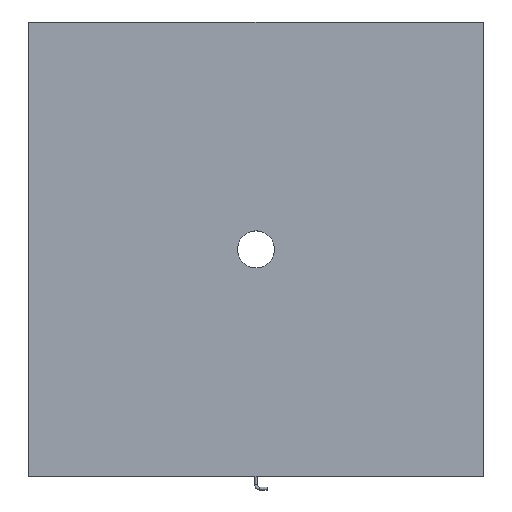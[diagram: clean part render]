
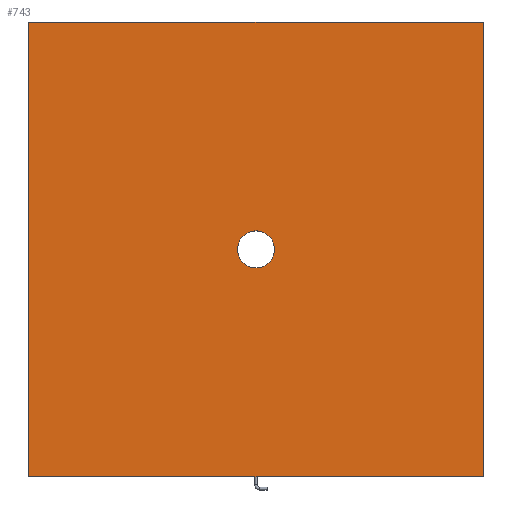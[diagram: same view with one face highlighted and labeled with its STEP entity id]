
A CAD part, top view. The second image highlights one B-rep face of the part: STEP entity #743.
In plain terms, the highlighted planar face has unit normal (0, 0, 1).
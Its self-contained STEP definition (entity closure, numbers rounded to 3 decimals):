
#5 = DIRECTION ( 'NONE',  ( 0.707, 0.707, 0. ) ) ;
#8 = LINE ( 'NONE', #2046, #1621 ) ;
#11 = AXIS2_PLACEMENT_3D ( 'NONE', #1297, #1629, #245 ) ;
#14 = DIRECTION ( 'NONE',  ( 0., -1., 0. ) ) ;
#34 = ORIENTED_EDGE ( 'NONE', *, *, #1228, .T. ) ;
#70 = EDGE_CURVE ( 'NONE', #1050, #1069, #1523, .T. ) ;
#71 = CARTESIAN_POINT ( 'NONE',  ( 307., -307., 40. ) ) ;
#74 = VECTOR ( 'NONE', #375, 1000. ) ;
#132 = VERTEX_POINT ( 'NONE', #1577 ) ;
#144 = EDGE_CURVE ( 'NONE', #1151, #1132, #1418, .T. ) ;
#147 = FACE_BOUND ( 'NONE', #491, .T. ) ;
#165 = CARTESIAN_POINT ( 'NONE',  ( 306.5, -307., 40. ) ) ;
#172 = DIRECTION ( 'NONE',  ( 1., 0., 0. ) ) ;
#206 = ORIENTED_EDGE ( 'NONE', *, *, #2139, .T. ) ;
#245 = DIRECTION ( 'NONE',  ( -1., 0., 0. ) ) ;
#265 = VERTEX_POINT ( 'NONE', #450 ) ;
#299 = VECTOR ( 'NONE', #1934, 1000. ) ;
#320 = VECTOR ( 'NONE', #1809, 1000. ) ;
#367 = EDGE_CURVE ( 'NONE', #265, #406, #889, .T. ) ;
#375 = DIRECTION ( 'NONE',  ( 0.707, -0.707, 0. ) ) ;
#400 = AXIS2_PLACEMENT_3D ( 'NONE', #844, #1027, #172 ) ;
#406 = VERTEX_POINT ( 'NONE', #1524 ) ;
#407 = VECTOR ( 'NONE', #14, 1000. ) ;
#414 = EDGE_CURVE ( 'NONE', #132, #2069, #628, .T. ) ;
#450 = CARTESIAN_POINT ( 'NONE',  ( -306.5, 307., 40. ) ) ;
#457 = CARTESIAN_POINT ( 'NONE',  ( 306.5, 307., 40. ) ) ;
#484 = DIRECTION ( 'NONE',  ( -0.707, -0.707, 0. ) ) ;
#491 = EDGE_LOOP ( 'NONE', ( #887, #2018 ) ) ;
#516 = FACE_OUTER_BOUND ( 'NONE', #1262, .T. ) ;
#523 = LINE ( 'NONE', #910, #74 ) ;
#544 = CARTESIAN_POINT ( 'NONE',  ( -307., -307., 40. ) ) ;
#553 = CARTESIAN_POINT ( 'NONE',  ( 307., -306.5, 40. ) ) ;
#560 = CARTESIAN_POINT ( 'NONE',  ( 306.5, 307., 40. ) ) ;
#561 = EDGE_CURVE ( 'NONE', #1834, #1050, #523, .T. ) ;
#590 = ORIENTED_EDGE ( 'NONE', *, *, #144, .T. ) ;
#608 = DIRECTION ( 'NONE',  ( 0., 0., 1. ) ) ;
#628 = CIRCLE ( 'NONE', #400, 25. ) ;
#667 = CARTESIAN_POINT ( 'NONE',  ( -307., -306.5, 40. ) ) ;
#724 = ORIENTED_EDGE ( 'NONE', *, *, #367, .T. ) ;
#743 = ADVANCED_FACE ( 'NONE', ( #516, #147 ), #828, .F. ) ;
#798 = DIRECTION ( 'NONE',  ( 1., 0., 0. ) ) ;
#828 = PLANE ( 'NONE',  #11 ) ;
#835 = CIRCLE ( 'NONE', #924, 25. ) ;
#844 = CARTESIAN_POINT ( 'NONE',  ( 0., 0., 40. ) ) ;
#847 = CARTESIAN_POINT ( 'NONE',  ( 307., -306.5, 40. ) ) ;
#887 = ORIENTED_EDGE ( 'NONE', *, *, #414, .F. ) ;
#889 = LINE ( 'NONE', #1663, #975 ) ;
#910 = CARTESIAN_POINT ( 'NONE',  ( -306.5, -307., 40. ) ) ;
#924 = AXIS2_PLACEMENT_3D ( 'NONE', #1643, #608, #798 ) ;
#942 = ORIENTED_EDGE ( 'NONE', *, *, #70, .T. ) ;
#975 = VECTOR ( 'NONE', #484, 1000. ) ;
#1027 = DIRECTION ( 'NONE',  ( 0., 0., 1. ) ) ;
#1050 = VERTEX_POINT ( 'NONE', #1511 ) ;
#1069 = VERTEX_POINT ( 'NONE', #165 ) ;
#1132 = VERTEX_POINT ( 'NONE', #1543 ) ;
#1151 = VERTEX_POINT ( 'NONE', #553 ) ;
#1181 = EDGE_CURVE ( 'NONE', #2069, #132, #835, .T. ) ;
#1228 = EDGE_CURVE ( 'NONE', #1069, #1151, #1416, .T. ) ;
#1244 = LINE ( 'NONE', #457, #320 ) ;
#1262 = EDGE_LOOP ( 'NONE', ( #1529, #1503, #942, #34, #590, #1322, #206, #724 ) ) ;
#1297 = CARTESIAN_POINT ( 'NONE',  ( 0., 0., 40. ) ) ;
#1322 = ORIENTED_EDGE ( 'NONE', *, *, #1566, .T. ) ;
#1416 = LINE ( 'NONE', #847, #1709 ) ;
#1418 = LINE ( 'NONE', #71, #299 ) ;
#1503 = ORIENTED_EDGE ( 'NONE', *, *, #561, .T. ) ;
#1511 = CARTESIAN_POINT ( 'NONE',  ( -306.5, -307., 40. ) ) ;
#1519 = DIRECTION ( 'NONE',  ( -1., 0., 0. ) ) ;
#1523 = LINE ( 'NONE', #544, #1958 ) ;
#1524 = CARTESIAN_POINT ( 'NONE',  ( -307., 306.5, 40. ) ) ;
#1529 = ORIENTED_EDGE ( 'NONE', *, *, #1666, .T. ) ;
#1543 = CARTESIAN_POINT ( 'NONE',  ( 307., 306.5, 40. ) ) ;
#1566 = EDGE_CURVE ( 'NONE', #1132, #1677, #1244, .T. ) ;
#1577 = CARTESIAN_POINT ( 'NONE',  ( -25., 0., 40. ) ) ;
#1598 = LINE ( 'NONE', #1889, #407 ) ;
#1621 = VECTOR ( 'NONE', #1519, 1000. ) ;
#1629 = DIRECTION ( 'NONE',  ( 0., 0., -1. ) ) ;
#1643 = CARTESIAN_POINT ( 'NONE',  ( 0., 0., 40. ) ) ;
#1663 = CARTESIAN_POINT ( 'NONE',  ( -307., 306.5, 40. ) ) ;
#1666 = EDGE_CURVE ( 'NONE', #406, #1834, #1598, .T. ) ;
#1677 = VERTEX_POINT ( 'NONE', #560 ) ;
#1709 = VECTOR ( 'NONE', #5, 1000. ) ;
#1717 = CARTESIAN_POINT ( 'NONE',  ( 25., 0., 40. ) ) ;
#1809 = DIRECTION ( 'NONE',  ( -0.707, 0.707, 0. ) ) ;
#1834 = VERTEX_POINT ( 'NONE', #667 ) ;
#1889 = CARTESIAN_POINT ( 'NONE',  ( -307., -307., 40. ) ) ;
#1934 = DIRECTION ( 'NONE',  ( 0., 1., 0. ) ) ;
#1958 = VECTOR ( 'NONE', #2057, 1000. ) ;
#2018 = ORIENTED_EDGE ( 'NONE', *, *, #1181, .F. ) ;
#2046 = CARTESIAN_POINT ( 'NONE',  ( -307., 307., 40. ) ) ;
#2057 = DIRECTION ( 'NONE',  ( 1., 0., 0. ) ) ;
#2069 = VERTEX_POINT ( 'NONE', #1717 ) ;
#2139 = EDGE_CURVE ( 'NONE', #1677, #265, #8, .T. ) ;
